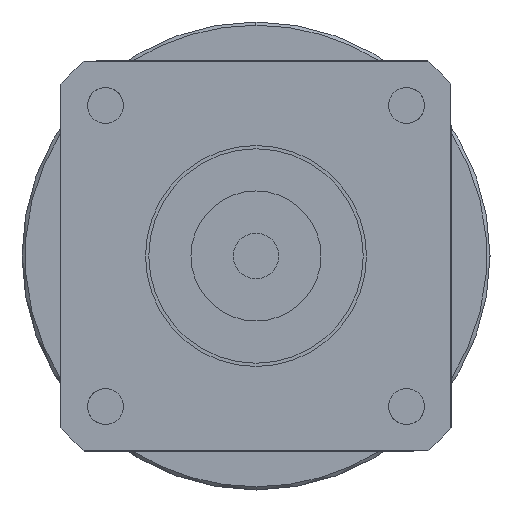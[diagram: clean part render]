
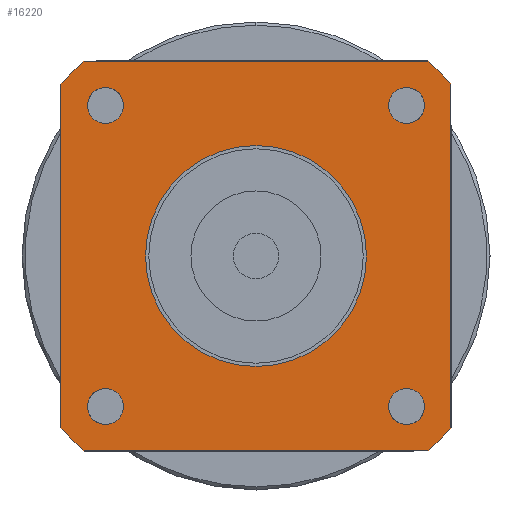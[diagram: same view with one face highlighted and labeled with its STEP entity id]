
A CAD part, left-side view. The second image highlights one B-rep face of the part: STEP entity #16220.
In plain terms, the highlighted planar face has unit normal (-1, 0, 0) as drawn and (0, 0, -1) by its records, which use the part's own axes.
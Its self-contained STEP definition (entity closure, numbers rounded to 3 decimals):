
#14580=CARTESIAN_POINT('',(23.158,-20.408,-91.));
#14590=VERTEX_POINT('',#14580);
#14680=CARTESIAN_POINT('',(23.158,-25.908,-91.));
#14690=VERTEX_POINT('',#14680);
#14720=CARTESIAN_POINT('',(23.158,-23.158,-91.));
#14730=DIRECTION('',(0.,0.,1.));
#14740=DIRECTION('',(0.,1.,0.));
#14750=AXIS2_PLACEMENT_3D('',#14720,#14730,#14740);
#14760=CIRCLE('',#14750,2.75);
#14770=EDGE_CURVE('',#14690,#14590,#14760,.T.);
#14820=CARTESIAN_POINT('',(-30.,30.,-91.));
#14830=DIRECTION('',(0.,0.,1.));
#14840=DIRECTION('',(-1.,0.,0.));
#14850=AXIS2_PLACEMENT_3D('',#14820,#14830,#14840);
#14860=PLANE('',#14850);
#14870=CARTESIAN_POINT('',(23.158,23.158,-91.));
#14880=DIRECTION('',(0.,0.,1.));
#14890=DIRECTION('',(-1.,0.,0.));
#14900=AXIS2_PLACEMENT_3D('',#14870,#14880,#14890);
#14910=CIRCLE('',#14900,2.75);
#14920=CARTESIAN_POINT('',(20.408,23.158,-91.));
#14930=VERTEX_POINT('',#14920);
#14940=CARTESIAN_POINT('',(25.908,23.158,-91.));
#14950=VERTEX_POINT('',#14940);
#14960=EDGE_CURVE('',#14930,#14950,#14910,.T.);
#14970=ORIENTED_EDGE('',*,*,#14960,.T.);
#14980=EDGE_CURVE('',#14950,#14930,#14910,.T.);
#14990=ORIENTED_EDGE('',*,*,#14980,.T.);
#15000=EDGE_LOOP('',(#14990,#14970));
#15010=FACE_BOUND('',#15000,.T.);
#15020=CARTESIAN_POINT('',(-23.158,23.158,-91.));
#15030=DIRECTION('',(0.,0.,1.));
#15040=DIRECTION('',(0.,-1.,0.));
#15050=AXIS2_PLACEMENT_3D('',#15020,#15030,#15040);
#15060=CIRCLE('',#15050,2.75);
#15070=CARTESIAN_POINT('',(-23.158,20.408,-91.));
#15080=VERTEX_POINT('',#15070);
#15090=CARTESIAN_POINT('',(-23.158,25.908,-91.));
#15100=VERTEX_POINT('',#15090);
#15110=EDGE_CURVE('',#15080,#15100,#15060,.T.);
#15120=ORIENTED_EDGE('',*,*,#15110,.T.);
#15130=EDGE_CURVE('',#15100,#15080,#15060,.T.);
#15140=ORIENTED_EDGE('',*,*,#15130,.T.);
#15150=EDGE_LOOP('',(#15140,#15120));
#15160=FACE_BOUND('',#15150,.T.);
#15170=CARTESIAN_POINT('',(-23.158,-23.158,-91.));
#15180=DIRECTION('',(0.,0.,1.));
#15190=DIRECTION('',(1.,0.,0.));
#15200=AXIS2_PLACEMENT_3D('',#15170,#15180,#15190);
#15210=CIRCLE('',#15200,2.75);
#15220=CARTESIAN_POINT('',(-20.408,-23.158,-91.));
#15230=VERTEX_POINT('',#15220);
#15240=CARTESIAN_POINT('',(-25.908,-23.158,-91.));
#15250=VERTEX_POINT('',#15240);
#15260=EDGE_CURVE('',#15230,#15250,#15210,.T.);
#15270=ORIENTED_EDGE('',*,*,#15260,.T.);
#15280=EDGE_CURVE('',#15250,#15230,#15210,.T.);
#15290=ORIENTED_EDGE('',*,*,#15280,.T.);
#15300=EDGE_LOOP('',(#15290,#15270));
#15310=FACE_BOUND('',#15300,.T.);
#15320=CARTESIAN_POINT('',(0.,0.,
-91.));
#15330=DIRECTION('',(0.,0.,1.));
#15340=DIRECTION('',(1.,0.,0.));
#15350=AXIS2_PLACEMENT_3D('',#15320,#15330,#15340);
#15360=CIRCLE('',#15350,17.);
#15370=CARTESIAN_POINT('',(17.,0.,-91.));
#15380=VERTEX_POINT('',#15370);
#15390=CARTESIAN_POINT('',(-17.,0.,-91.));
#15400=VERTEX_POINT('',#15390);
#15410=EDGE_CURVE('',#15380,#15400,#15360,.T.);
#15420=ORIENTED_EDGE('',*,*,#15410,.T.);
#15430=EDGE_CURVE('',#15400,#15380,#15360,.T.);
#15440=ORIENTED_EDGE('',*,*,#15430,.T.);
#15450=EDGE_LOOP('',(#15440,#15420));
#15460=FACE_BOUND('',#15450,.T.);
#15470=EDGE_CURVE('',#14590,#14690,#14760,.T.);
#15480=ORIENTED_EDGE('',*,*,#15470,.T.);
#15490=ORIENTED_EDGE('',*,*,#14770,.T.);
#15500=EDGE_LOOP('',(#15490,#15480));
#15510=FACE_BOUND('',#15500,.T.);
#15520=CARTESIAN_POINT('',(0.,0.,
-91.));
#15530=DIRECTION('',(0.,0.,1.));
#15540=DIRECTION('',(0.,-1.,0.));
#15550=AXIS2_PLACEMENT_3D('',#15520,#15530,#15540);
#15560=CIRCLE('',#15550,40.);
#15570=CARTESIAN_POINT('',(-30.,-26.458,-91.));
#15580=VERTEX_POINT('',#15570);
#15590=CARTESIAN_POINT('',(-26.458,-30.,-91.));
#15600=VERTEX_POINT('',#15590);
#15610=EDGE_CURVE('',#15580,#15600,#15560,.T.);
#15620=ORIENTED_EDGE('',*,*,#15610,.F.);
#15630=CARTESIAN_POINT('',(-30.,-30.,-91.));
#15640=DIRECTION('',(1.,0.,0.));
#15650=VECTOR('',#15640,1000.);
#15660=LINE('',#15630,#15650);
#15670=CARTESIAN_POINT('',(26.458,-30.,-91.));
#15680=VERTEX_POINT('',#15670);
#15690=EDGE_CURVE('',#15600,#15680,#15660,.T.);
#15700=ORIENTED_EDGE('',*,*,#15690,.F.);
#15710=CARTESIAN_POINT('',(0.,0.,
-91.));
#15720=DIRECTION('',(0.,0.,1.));
#15730=DIRECTION('',(0.,-1.,0.));
#15740=AXIS2_PLACEMENT_3D('',#15710,#15720,#15730);
#15750=CIRCLE('',#15740,40.);
#15760=CARTESIAN_POINT('',(30.,-26.458,-91.));
#15770=VERTEX_POINT('',#15760);
#15780=EDGE_CURVE('',#15680,#15770,#15750,.T.);
#15790=ORIENTED_EDGE('',*,*,#15780,.F.);
#15800=CARTESIAN_POINT('',(30.,-30.,-91.));
#15810=DIRECTION('',(0.,1.,0.));
#15820=VECTOR('',#15810,1000.);
#15830=LINE('',#15800,#15820);
#15840=CARTESIAN_POINT('',(30.,26.458,-91.));
#15850=VERTEX_POINT('',#15840);
#15860=EDGE_CURVE('',#15770,#15850,#15830,.T.);
#15870=ORIENTED_EDGE('',*,*,#15860,.F.);
#15880=CARTESIAN_POINT('',(0.,0.,
-91.));
#15890=DIRECTION('',(0.,0.,1.));
#15900=DIRECTION('',(0.,-1.,0.));
#15910=AXIS2_PLACEMENT_3D('',#15880,#15890,#15900);
#15920=CIRCLE('',#15910,40.);
#15930=CARTESIAN_POINT('',(26.458,30.,-91.));
#15940=VERTEX_POINT('',#15930);
#15950=EDGE_CURVE('',#15850,#15940,#15920,.T.);
#15960=ORIENTED_EDGE('',*,*,#15950,.F.);
#15970=CARTESIAN_POINT('',(30.,30.,-91.));
#15980=DIRECTION('',(-1.,0.,0.));
#15990=VECTOR('',#15980,1000.);
#16000=LINE('',#15970,#15990);
#16010=CARTESIAN_POINT('',(-26.458,30.,-91.));
#16020=VERTEX_POINT('',#16010);
#16030=EDGE_CURVE('',#15940,#16020,#16000,.T.);
#16040=ORIENTED_EDGE('',*,*,#16030,.F.);
#16050=CARTESIAN_POINT('',(0.,0.,
-91.));
#16060=DIRECTION('',(0.,0.,1.));
#16070=DIRECTION('',(0.,-1.,0.));
#16080=AXIS2_PLACEMENT_3D('',#16050,#16060,#16070);
#16090=CIRCLE('',#16080,40.);
#16100=CARTESIAN_POINT('',(-30.,26.458,-91.));
#16110=VERTEX_POINT('',#16100);
#16120=EDGE_CURVE('',#16020,#16110,#16090,.T.);
#16130=ORIENTED_EDGE('',*,*,#16120,.F.);
#16140=CARTESIAN_POINT('',(-30.,30.,-91.));
#16150=DIRECTION('',(0.,-1.,0.));
#16160=VECTOR('',#16150,1000.);
#16170=LINE('',#16140,#16160);
#16180=EDGE_CURVE('',#16110,#15580,#16170,.T.);
#16190=ORIENTED_EDGE('',*,*,#16180,.F.);
#16200=EDGE_LOOP('',(#16190,#16130,#16040,#15960,#15870,#15790,#15700,
#15620));
#16210=FACE_OUTER_BOUND('',#16200,.T.);
#16220=ADVANCED_FACE('',(#15010,#15160,#15310,#15460,#15510,#16210),
#14860,.F.);
